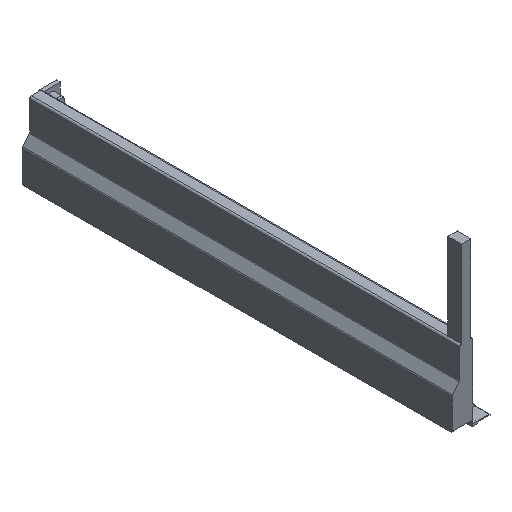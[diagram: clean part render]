
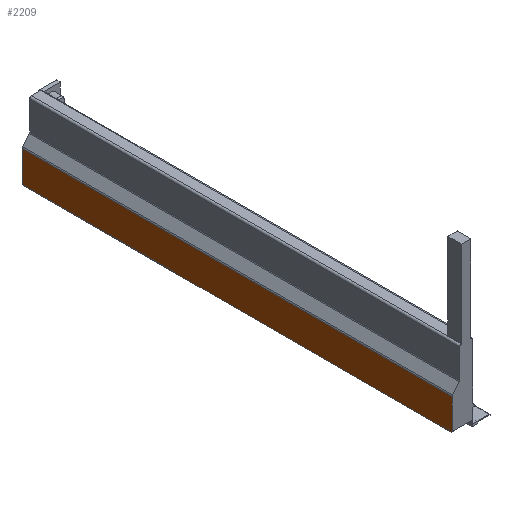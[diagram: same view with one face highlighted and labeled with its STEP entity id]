
A CAD part, isometric view. The second image highlights one B-rep face of the part: STEP entity #2209.
In plain terms, the highlighted planar face has unit normal (-1, 0, 0).
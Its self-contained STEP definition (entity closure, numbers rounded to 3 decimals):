
#58 = CARTESIAN_POINT ( 'NONE',  ( -2.3, 2.03, -13.5 ) ) ;
#63 = DIRECTION ( 'NONE',  ( 0., -0.94, 0.342 ) ) ;
#67 = CARTESIAN_POINT ( 'NONE',  ( -2.3, 494.97, -13.5 ) ) ;
#131 = DIRECTION ( 'NONE',  ( 0., 0., 1. ) ) ;
#150 = DIRECTION ( 'NONE',  ( 0., 0., 1. ) ) ;
#156 = CARTESIAN_POINT ( 'NONE',  ( -2.3, 0., -13.5 ) ) ;
#193 = CARTESIAN_POINT ( 'NONE',  ( -2.3, 497., -13.5 ) ) ;
#217 = DIRECTION ( 'NONE',  ( 0., -0.94, -0.342 ) ) ;
#232 = DIRECTION ( 'NONE',  ( 0., -1., 0. ) ) ;
#422 = DIRECTION ( 'NONE',  ( 0., -1., 0. ) ) ;
#429 = CARTESIAN_POINT ( 'NONE',  ( -2.3, 497., -13.5 ) ) ;
#609 = EDGE_LOOP ( 'NONE', ( #1007, #1242, #976, #1148, #1036, #1136, #1073, #1025 ) ) ;
#976 = ORIENTED_EDGE ( 'NONE', *, *, #2873, .F. ) ;
#1007 = ORIENTED_EDGE ( 'NONE', *, *, #2931, .T. ) ;
#1013 = CIRCLE ( 'NONE', #2868, 1.001 ) ;
#1022 = FACE_OUTER_BOUND ( 'NONE', #609, .T. ) ;
#1025 = ORIENTED_EDGE ( 'NONE', *, *, #1442, .T. ) ;
#1036 = ORIENTED_EDGE ( 'NONE', *, *, #2863, .T. ) ;
#1073 = ORIENTED_EDGE ( 'NONE', *, *, #2999, .T. ) ;
#1089 = CIRCLE ( 'NONE', #1447, 1.001 ) ;
#1136 = ORIENTED_EDGE ( 'NONE', *, *, #2661, .T. ) ;
#1148 = ORIENTED_EDGE ( 'NONE', *, *, #1453, .T. ) ;
#1242 = ORIENTED_EDGE ( 'NONE', *, *, #2615, .F. ) ;
#1435 = CARTESIAN_POINT ( 'NONE',  ( -2.3, 497., 22.566 ) ) ;
#1442 = EDGE_CURVE ( 'NONE', #1636, #1677, #1089, .T. ) ;
#1447 = AXIS2_PLACEMENT_3D ( 'NONE', #1862, #1861, #1868 ) ;
#1453 = EDGE_CURVE ( 'NONE', #1627, #1685, #1013, .T. ) ;
#1503 = VERTEX_POINT ( 'NONE', #1623 ) ;
#1534 = VERTEX_POINT ( 'NONE', #1656 ) ;
#1608 = VERTEX_POINT ( 'NONE', #1873 ) ;
#1623 = CARTESIAN_POINT ( 'NONE',  ( -2.3, 2.03, -13.5 ) ) ;
#1627 = VERTEX_POINT ( 'NONE', #1771 ) ;
#1636 = VERTEX_POINT ( 'NONE', #1770 ) ;
#1642 = VERTEX_POINT ( 'NONE', #1729 ) ;
#1656 = CARTESIAN_POINT ( 'NONE',  ( -2.3, 494.97, -13.5 ) ) ;
#1677 = VERTEX_POINT ( 'NONE', #1773 ) ;
#1685 = VERTEX_POINT ( 'NONE', #1809 ) ;
#1729 = CARTESIAN_POINT ( 'NONE',  ( -2.3, 497., 22.566 ) ) ;
#1770 = CARTESIAN_POINT ( 'NONE',  ( -2.3, 0.659, -13.001 ) ) ;
#1771 = CARTESIAN_POINT ( 'NONE',  ( -2.3, 497., -12.06 ) ) ;
#1773 = CARTESIAN_POINT ( 'NONE',  ( -2.3, 0., -12.06 ) ) ;
#1809 = CARTESIAN_POINT ( 'NONE',  ( -2.3, 496.341, -13.001 ) ) ;
#1853 = DIRECTION ( 'NONE',  ( 0., 1., 0. ) ) ;
#1861 = DIRECTION ( 'NONE',  ( -1., 0., 0. ) ) ;
#1862 = CARTESIAN_POINT ( 'NONE',  ( -2.3, 1.001, -12.06 ) ) ;
#1865 = CARTESIAN_POINT ( 'NONE',  ( -2.3, 495.999, -12.06 ) ) ;
#1868 = DIRECTION ( 'NONE',  ( 0., -1., 0. ) ) ;
#1873 = CARTESIAN_POINT ( 'NONE',  ( -2.3, 0., 22.566 ) ) ;
#1880 = DIRECTION ( 'NONE',  ( -1., 0., 0. ) ) ;
#2060 = DIRECTION ( 'NONE',  ( 0., 1., 0. ) ) ;
#2061 = DIRECTION ( 'NONE',  ( -1., 0., 0. ) ) ;
#2063 = PLANE ( 'NONE',  #2733 ) ;
#2064 = CARTESIAN_POINT ( 'NONE',  ( -2.3, 497., -13.5 ) ) ;
#2091 = VECTOR ( 'NONE', #63, 1000. ) ;
#2092 = LINE ( 'NONE', #58, #2091 ) ;
#2209 = ADVANCED_FACE ( 'NONE', ( #1022 ), #2063, .T. ) ;
#2212 = VECTOR ( 'NONE', #150, 1000. ) ;
#2214 = LINE ( 'NONE', #156, #2212 ) ;
#2318 = VECTOR ( 'NONE', #131, 1000. ) ;
#2319 = LINE ( 'NONE', #193, #2318 ) ;
#2327 = VECTOR ( 'NONE', #217, 1000. ) ;
#2328 = LINE ( 'NONE', #67, #2327 ) ;
#2538 = VECTOR ( 'NONE', #422, 1000. ) ;
#2539 = LINE ( 'NONE', #429, #2538 ) ;
#2583 = VECTOR ( 'NONE', #232, 1000. ) ;
#2601 = LINE ( 'NONE', #1435, #2583 ) ;
#2615 = EDGE_CURVE ( 'NONE', #1642, #1608, #2601, .T. ) ;
#2661 = EDGE_CURVE ( 'NONE', #1534, #1503, #2539, .T. ) ;
#2733 = AXIS2_PLACEMENT_3D ( 'NONE', #2064, #2061, #2060 ) ;
#2863 = EDGE_CURVE ( 'NONE', #1685, #1534, #2328, .T. ) ;
#2868 = AXIS2_PLACEMENT_3D ( 'NONE', #1865, #1880, #1853 ) ;
#2873 = EDGE_CURVE ( 'NONE', #1627, #1642, #2319, .T. ) ;
#2931 = EDGE_CURVE ( 'NONE', #1677, #1608, #2214, .T. ) ;
#2999 = EDGE_CURVE ( 'NONE', #1503, #1636, #2092, .T. ) ;
